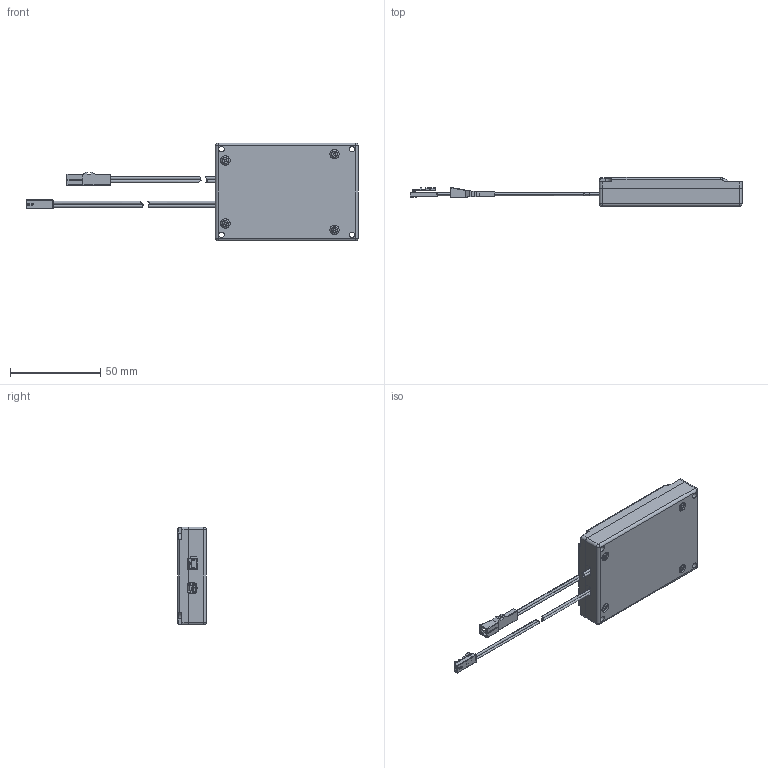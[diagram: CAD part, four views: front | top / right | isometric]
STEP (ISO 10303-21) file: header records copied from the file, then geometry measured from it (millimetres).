
FILE_DESCRIPTION (( 'STEP AP203' ), '1' );
FILE_NAME ('MultiSwitch_Master_24.STEP', '2024-12-03T04:48:58', ( '' ), ( '' ), 'SwSTEP 2.0', 'SolidWorks 2023', '' );
FILE_SCHEMA (( 'CONFIG_CONTROL_DESIGN' ));
Length unit declared in the file: millimetre
Products named in the file (10): 1916504_Pr1251_Mini_Buchse_LED_sw_DAM_L=100mm_mit_Trennung; 2578105_30.142.01 - NV 12VDC 36W; Buchse_A1005-WAR-S-3P; P02908_Leiterplatte_Mastereinheit_MultiSwitch; P02908_Zugentlastung_NV_MultiSwitch_Master; Blechschraube_3,0x10; 2578005; 1916503_Pr1251_Mini_Stecker_LED_sw_DAM_L=100mm_mit_Trennung; MultiSwitch_Master_24
Assembly tree (16 placements, depth 3):
  MultiSwitch_Master_24
    2578005
    2578105_30.142.01 - NV 12VDC 36W
    P02908_Leiterplatte_Mastereinheit_MultiSwitch
      P02908_Leiterplatte_Mastereinheit_MultiSwitch
      Buchse_A1005-WAR-S-3P  x4
    P02908_Zugentlastung_NV_MultiSwitch_Master
    1916504_Pr1251_Mini_Buchse_LED_sw_DAM_L=100mm_mit_Trennung
    1916503_Pr1251_Mini_Stecker_LED_sw_DAM_L=100mm_mit_Trennung
    Blechschraube_3,0x10  x5
Bounding box: 184 x 16 x 54.2 mm (x, y, z)
Volume: 22502.6 mm3; surface area: 38571.9 mm2
Topology: 23 solids, 23 shells, 1338 faces, 3517 edges, 2174 vertices
Faces by surface type: plane 679, cylinder 453, torus 76, sphere 71, cone 30, bspline 29
Entity records: 31170 total; most frequent: CARTESIAN_POINT 6963, DIRECTION 4921, ORIENTED_EDGE 4754, EDGE_CURVE 2377, AXIS2_PLACEMENT_3D 1726, VERTEX_POINT 1476, VECTOR 1469, LINE 1469
